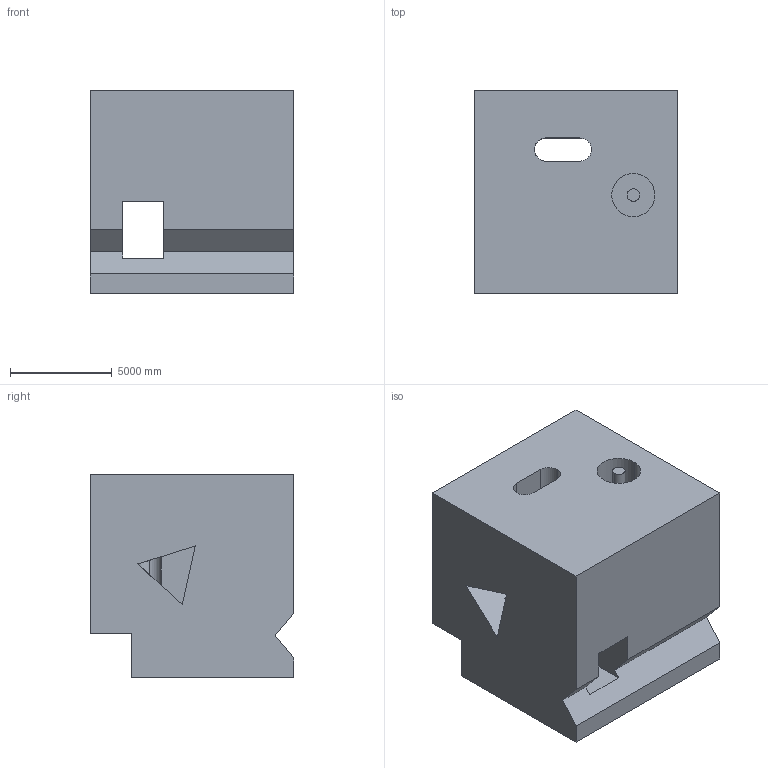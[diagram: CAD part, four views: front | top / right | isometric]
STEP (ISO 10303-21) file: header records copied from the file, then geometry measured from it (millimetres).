
FILE_DESCRIPTION (( 'STEP AP203' ), '1' );
FILE_NAME ('1666.STEP', '2022-08-19T11:31:28', ( 'user' ), ( '' ), 'SwSTEP 2.0', 'SolidWorks 2021', '' );
FILE_SCHEMA (( 'CONFIG_CONTROL_DESIGN' ));
Length unit declared in the file: centimetre
Products named in the file (1): 1666
Bounding box: 10000 x 10000 x 10000 mm (x, y, z)
Volume: 811878936690.8 mm3; surface area: 822073403.5 mm2
Topology: 1 solids, 1 shells, 45 faces, 141 edges, 94 vertices
Faces by surface type: plane 36, cylinder 9
Entity records: 1648 total; most frequent: CARTESIAN_POINT 287, ORIENTED_EDGE 282, DIRECTION 247, EDGE_CURVE 141, LINE 123, VECTOR 123, VERTEX_POINT 94, AXIS2_PLACEMENT_3D 62
